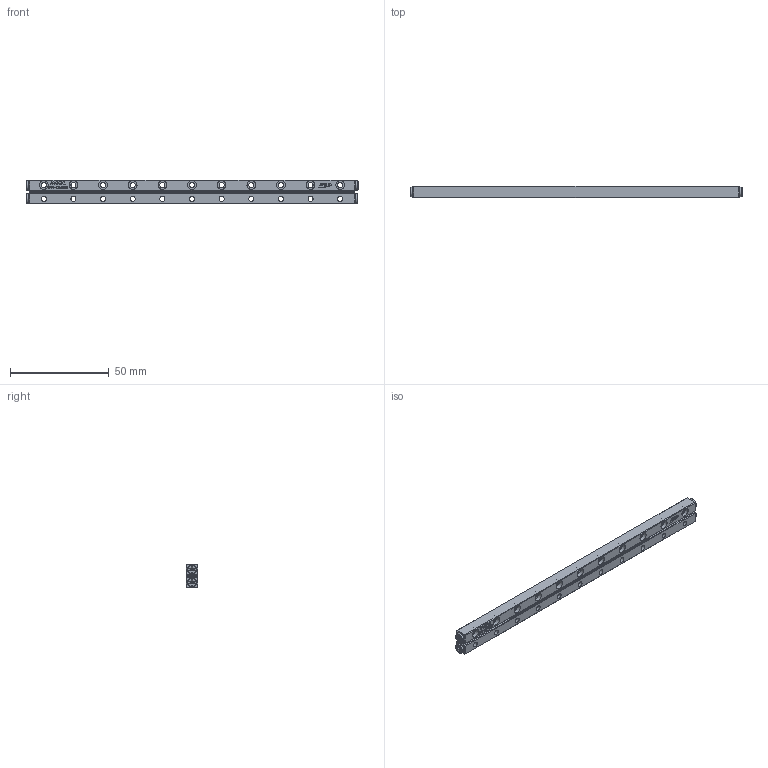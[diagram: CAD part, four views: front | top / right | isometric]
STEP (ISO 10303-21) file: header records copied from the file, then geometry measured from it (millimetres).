
FILE_DESCRIPTION (( 'STEP AP203' ), '1' );
FILE_NAME ('GRV02-165.STEP', '2023-08-22T01:40:25', ( '' ), ( '' ), 'SwSTEP 2.0', 'SolidWorks 2019', '' );
FILE_SCHEMA (( 'CONFIG_CONTROL_DESIGN' ));
Length unit declared in the file: millimetre
Products named in the file (3): GRV02-165-模糊化保持器組; GRV02-165; GRV02-165-模糊化軌道
Assembly tree (3 placements, depth 2):
  GRV02-165
    GRV02-165-模糊化軌道  x2
    GRV02-165-模糊化保持器組
Bounding box: 168 x 6 x 12 mm (x, y, z)
Volume: 9677.4 mm3; surface area: 10630.9 mm2
Topology: 3 solids, 3 shells, 1436 faces, 3677 edges, 2397 vertices
Faces by surface type: plane 913, cylinder 311, bspline 118, torus 58, cone 36
Full cylindrical faces by diameter (mm): 2.6 x22, 4.4 x22, 4.7 x4
Entity records: 36029 total; most frequent: CARTESIAN_POINT 11167, ORIENTED_EDGE 5466, DIRECTION 4517, EDGE_CURVE 2733, VERTEX_POINT 1807, VECTOR 1591, LINE 1591, AXIS2_PLACEMENT_3D 1463
